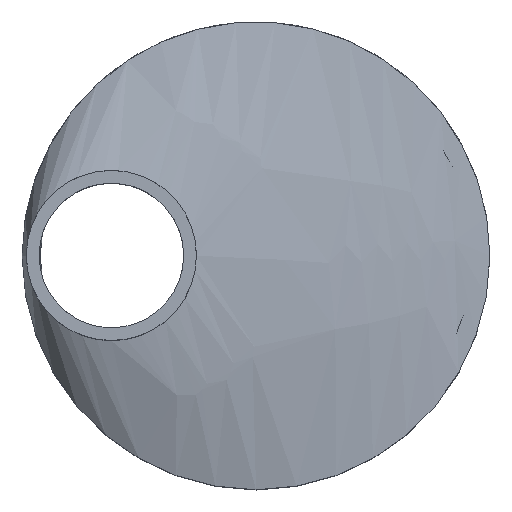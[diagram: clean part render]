
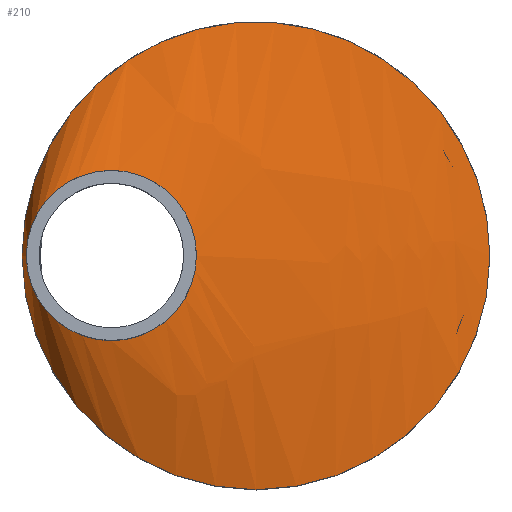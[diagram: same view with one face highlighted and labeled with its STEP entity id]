
A CAD part, top view. The second image highlights one B-rep face of the part: STEP entity #210.
In plain terms, the highlighted free-form (B-spline) face has degree [1, 2] with [2, 9] control points.
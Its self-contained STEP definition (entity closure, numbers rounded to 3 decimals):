
#15=B_SPLINE_CURVE_WITH_KNOTS($,1,(#401,#402),.UNSPECIFIED.,.F.,.F.,(2,
2),(-0.705,0.),.UNSPECIFIED.);
#17=(
BOUNDED_SURFACE()
B_SPLINE_SURFACE(1,2,((#379,#380,#381,#382,#383,#384,#385,#386,#387),(#388,
#389,#390,#391,#392,#393,#394,#395,#396)),.UNSPECIFIED.,.F.,.T.,.F.)
B_SPLINE_SURFACE_WITH_KNOTS((2,2),(3,2,2,2,3),(-4.217,0.898),
(-3.142,-1.571,0.,1.571,3.142),
 .UNSPECIFIED.)
GEOMETRIC_REPRESENTATION_ITEM()
RATIONAL_B_SPLINE_SURFACE(((1.,0.707,1.,0.707,1.,
0.707,1.,0.707,1.),(1.,0.707,1.,0.707,
1.,0.707,1.,0.707,1.)))
REPRESENTATION_ITEM($)
SURFACE()
);
#47=FACE_OUTER_BOUND($,#67,.T.);
#67=EDGE_LOOP($,(#167,#168,#169,#170,#171,#172));
#83=CIRCLE($,#231,55.);
#84=CIRCLE($,#232,55.);
#93=CIRCLE($,#243,20.);
#94=CIRCLE($,#244,20.);
#103=VERTEX_POINT($,#337);
#104=VERTEX_POINT($,#338);
#113=VERTEX_POINT($,#397);
#114=VERTEX_POINT($,#398);
#123=EDGE_CURVE($,#103,#104,#83,.T.);
#124=EDGE_CURVE($,#104,#103,#84,.T.);
#134=EDGE_CURVE($,#113,#114,#93,.T.);
#135=EDGE_CURVE($,#114,#113,#94,.T.);
#136=EDGE_CURVE($,#114,#104,#15,.T.);
#167=ORIENTED_EDGE($,*,*,#134,.F.);
#168=ORIENTED_EDGE($,*,*,#135,.F.);
#169=ORIENTED_EDGE($,*,*,#136,.T.);
#170=ORIENTED_EDGE($,*,*,#123,.F.);
#171=ORIENTED_EDGE($,*,*,#124,.F.);
#172=ORIENTED_EDGE($,*,*,#136,.F.);
#210=ADVANCED_FACE($,(#47),#17,.F.);
#231=AXIS2_PLACEMENT_3D($,#339,#278,#279);
#232=AXIS2_PLACEMENT_3D($,#340,#280,#281);
#243=AXIS2_PLACEMENT_3D($,#399,#302,#303);
#244=AXIS2_PLACEMENT_3D($,#400,#304,#305);
#278=DIRECTION('center_axis',(0.,0.,-1.));
#279=DIRECTION('ref_axis',(-1.,0.,0.));
#280=DIRECTION('center_axis',(0.,0.,-1.));
#281=DIRECTION('ref_axis',(-1.,0.,0.));
#302=DIRECTION('center_axis',(0.,0.,1.));
#303=DIRECTION('ref_axis',(-1.,0.,0.));
#304=DIRECTION('center_axis',(0.,0.,1.));
#305=DIRECTION('ref_axis',(-1.,0.,0.));
#337=CARTESIAN_POINT('',(55.,0.,37.));
#338=CARTESIAN_POINT('',(-43.56,33.578,37.));
#339=CARTESIAN_POINT('Origin',(0.,0.,37.));
#340=CARTESIAN_POINT('Origin',(0.,0.,37.));
#379=CARTESIAN_POINT('Ctrl Pts',(-5.984,161.439,-10.87));
#380=CARTESIAN_POINT('Ctrl Pts',(-66.968,161.439,-58.741));
#381=CARTESIAN_POINT('Ctrl Pts',(-66.968,0.,
-58.741));
#382=CARTESIAN_POINT('Ctrl Pts',(-66.968,-161.439,-58.741));
#383=CARTESIAN_POINT('Ctrl Pts',(-5.984,-161.439,-10.87));
#384=CARTESIAN_POINT('Ctrl Pts',(55.,-161.439,37.));
#385=CARTESIAN_POINT('Ctrl Pts',(55.,0.,
37.));
#386=CARTESIAN_POINT('Ctrl Pts',(55.,161.439,37.));
#387=CARTESIAN_POINT('Ctrl Pts',(-5.984,161.439,-10.87));
#388=CARTESIAN_POINT('Ctrl Pts',(-51.563,6.348,47.195));
#389=CARTESIAN_POINT('Ctrl Pts',(-53.961,6.348,45.313));
#390=CARTESIAN_POINT('Ctrl Pts',(-53.961,0.,45.313));
#391=CARTESIAN_POINT('Ctrl Pts',(-53.961,-6.348,45.313));
#392=CARTESIAN_POINT('Ctrl Pts',(-51.563,-6.348,47.195));
#393=CARTESIAN_POINT('Ctrl Pts',(-49.165,-6.348,49.077));
#394=CARTESIAN_POINT('Ctrl Pts',(-49.165,0.,49.077));
#395=CARTESIAN_POINT('Ctrl Pts',(-49.165,6.348,49.077));
#396=CARTESIAN_POINT('Ctrl Pts',(-51.563,6.348,47.195));
#397=CARTESIAN_POINT('',(-14.,0.,45.));
#398=CARTESIAN_POINT('',(-49.84,12.21,45.));
#399=CARTESIAN_POINT('Origin',(-34.,0.,45.));
#400=CARTESIAN_POINT('Origin',(-34.,0.,45.));
#401=CARTESIAN_POINT('Ctrl Pts',(-49.84,12.21,45.));
#402=CARTESIAN_POINT('Ctrl Pts',(-43.56,33.578,37.));
